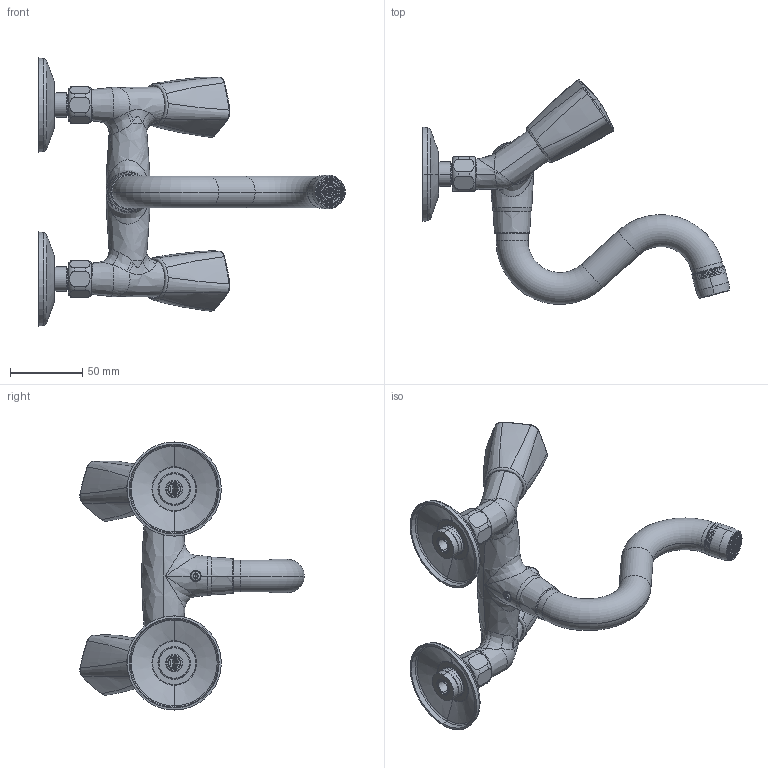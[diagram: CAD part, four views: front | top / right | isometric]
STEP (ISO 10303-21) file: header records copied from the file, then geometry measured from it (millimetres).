
FILE_DESCRIPTION((''),'2;1');
FILE_NAME('500615_ASM','2020-06-15T16:19:19',('LF994'),(''),'CREO PARAMETRIC BY PTC INC, 2018500','CREO PARAMETRIC BY PTC INC, 2018500','');
FILE_SCHEMA(('CONFIG_CONTROL_DESIGN'));
Length unit declared in the file: millimetre
Products named in the file (38): 613746; 607086; 508215_ASM; 607027; 607481; 607482; 603026; 601966; 603712; 601972; 600780; 600777; 600022; 604882; 501546_ASM; 616467; 608705; 509581_ASM; 607490_AF0; 606868_AF0; 607489_AF0; 600270; 600271; 504903_AF0_ASM; 607490_AF1; 606868_AF1; 607489_AF1; 504903_AF1_ASM; 600025; 606011; 600101_636978; 600639; 504537_530726_ASM; 40_1003-1008_23; 601939; 600529; 600518; 500615_ASM
Assembly tree (43 placements, depth 3):
  500615_ASM
    508215_ASM
      613746
      607086  x2
    501546_ASM  x2
      607027
      607481
      607482
      603026
      601966
      603712
      601972
      600780
      600777
      600022
      604882
    509581_ASM  x2
      616467
      608705
    504903_AF0_ASM
      607490_AF0
      606868_AF0
      607489_AF0
      600270
      600271
    504903_AF1_ASM
      607490_AF1
      606868_AF1
      607489_AF1
      600270
      600271
    600025
    504537_530726_ASM
      606011
      600101_636978
      600639
    40_1003-1008_23
    601939  x2
    600529
    600518
Bounding box: 211.69 x 154.85 x 185 mm (x, y, z)
Volume: 220351.1 mm3; surface area: 158462.7 mm2
Topology: 48 solids, 50 shells, 6141 faces, 17259 edges, 11235 vertices
Faces by surface type: plane 4033, cylinder 1080, cone 380, torus 353, bspline 288, sphere 4, revolution 2, extrusion 1
Entity records: 279319 total; most frequent: CARTESIAN_POINT 152693, ORIENTED_EDGE 30162, DIRECTION 20012, EDGE_CURVE 15081, VERTEX_POINT 9873, B_SPLINE_CURVE_WITH_KNOTS 7701, AXIS2_PLACEMENT_3D 7468, EDGE_LOOP 6352
